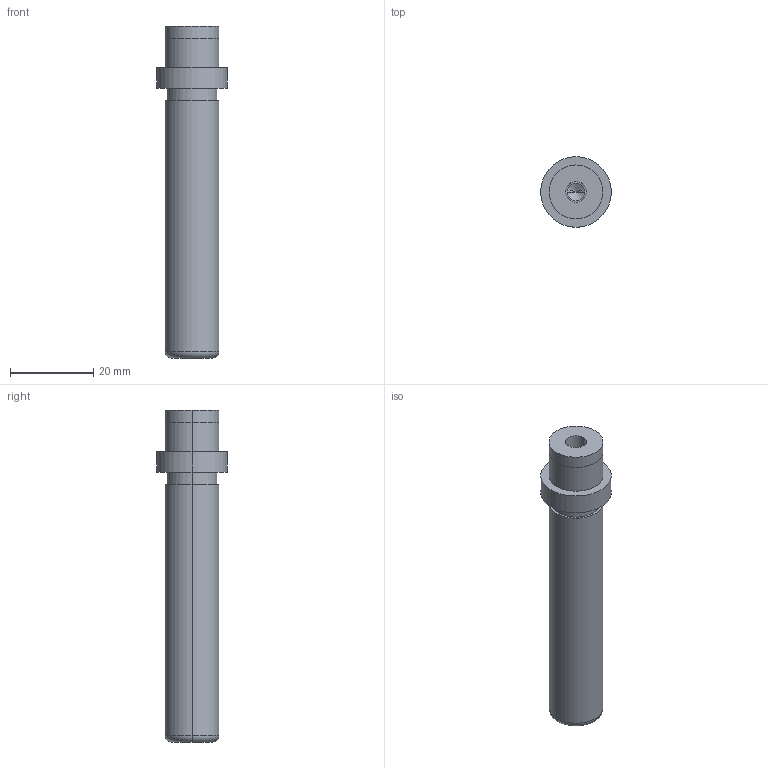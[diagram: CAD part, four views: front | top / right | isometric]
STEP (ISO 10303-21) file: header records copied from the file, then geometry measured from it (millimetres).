
FILE_DESCRIPTION(/* description */ (''),/* implementation_level */ '2;1');
FILE_NAME(/* name */ '3d_sgpw13-70_05278_r00.stp',/* time_stamp */ '2011-01-10T14:11:05+09:00',/* author */ ('MISUMI'),/* organization */ (''),/* preprocessor_version */ 'ST-DEVELOPER v11',/* originating_system */ 'UGS - NX 5.0',/* authorisation */ '');
FILE_SCHEMA (('CONFIG_CONTROL_DESIGN'));
Length unit declared in the file: millimetre
Products named in the file (1): 3d_sgpw13-70_05278_r00
Bounding box: 17 x 17 x 80 mm (x, y, z)
Volume: 10454.7 mm3; surface area: 4236.4 mm2
Topology: 1 solids, 1 shells, 31 faces, 64 edges, 38 vertices
Faces by surface type: cylinder 18, plane 7, cone 4, torus 2
Entity records: 890 total; most frequent: DIRECTION 162, CARTESIAN_POINT 130, ORIENTED_EDGE 120, AXIS2_PLACEMENT_3D 70, EDGE_CURVE 60, EDGE_LOOP 38, CIRCLE 38, VERTEX_POINT 38
